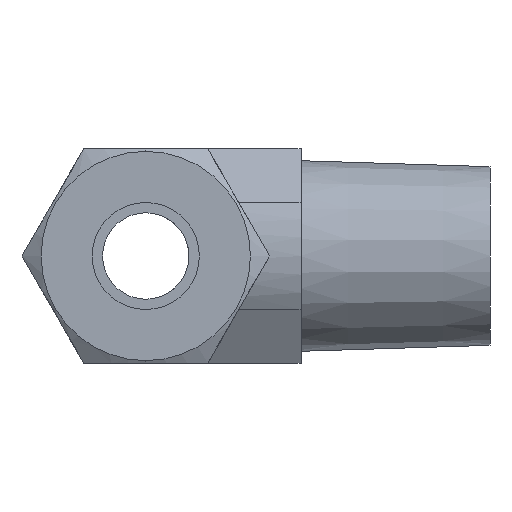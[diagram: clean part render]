
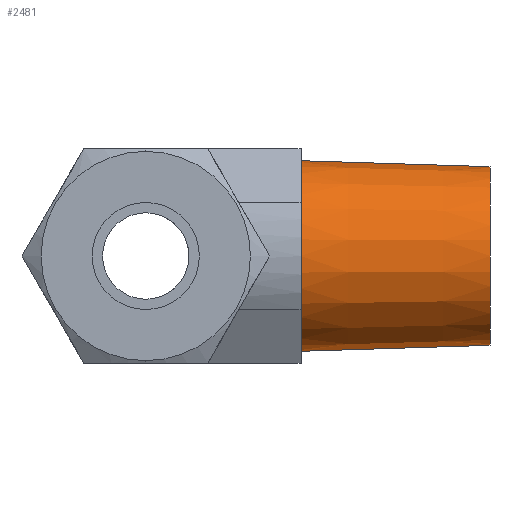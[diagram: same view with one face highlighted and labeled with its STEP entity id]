
A CAD part, left-side view. The second image highlights one B-rep face of the part: STEP entity #2481.
In plain terms, the highlighted conical face has half-angle 1.8 degrees and reference radius 6.8 mm.
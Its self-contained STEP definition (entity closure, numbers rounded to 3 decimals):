
#1 = ORIENTED_EDGE ( 'NONE', *, *, #2, .T. ) ;
#2 = EDGE_CURVE ( 'NONE', #5, #2493, #748, .T. ) ;
#3 = EDGE_CURVE ( 'NONE', #5, #2492, #744, .T. ) ;
#5 = VERTEX_POINT ( 'NONE', #739 ) ;
#9 = ORIENTED_EDGE ( 'NONE', *, *, #10, .F. ) ;
#10 = EDGE_CURVE ( 'NONE', #2492, #15, #736, .T. ) ;
#15 = VERTEX_POINT ( 'NONE', #791 ) ;
#18 = EDGE_CURVE ( 'NONE', #2493, #15, #788, .T. ) ;
#733 = DIRECTION ( 'NONE',  ( 0., 1., -0.031 ) ) ;
#734 = VECTOR ( 'NONE', #733, 1000. ) ;
#735 = CARTESIAN_POINT ( 'NONE',  ( 0., -19.71, -6.8 ) ) ;
#736 = LINE ( 'NONE', #735, #734 ) ;
#739 = CARTESIAN_POINT ( 'NONE',  ( 0., -25.5, 6.618 ) ) ;
#740 = DIRECTION ( 'NONE',  ( 0., 0., -1. ) ) ;
#741 = DIRECTION ( 'NONE',  ( 0., -1., 0. ) ) ;
#742 = CARTESIAN_POINT ( 'NONE',  ( 0., -25.5, 0. ) ) ;
#743 = AXIS2_PLACEMENT_3D ( 'NONE', #742, #741, #740 ) ;
#744 = CIRCLE ( 'NONE', #743, 6.618 ) ;
#745 = DIRECTION ( 'NONE',  ( 0., 1., 0.031 ) ) ;
#746 = VECTOR ( 'NONE', #745, 1000. ) ;
#747 = CARTESIAN_POINT ( 'NONE',  ( 0., -19.71, 6.8 ) ) ;
#748 = LINE ( 'NONE', #747, #746 ) ;
#780 = DIRECTION ( 'NONE',  ( 0., 0., 1. ) ) ;
#781 = DIRECTION ( 'NONE',  ( 0., -1., 0. ) ) ;
#782 = CARTESIAN_POINT ( 'NONE',  ( 0., -11.5, 0. ) ) ;
#783 = AXIS2_PLACEMENT_3D ( 'NONE', #782, #781, #780 ) ;
#788 = CIRCLE ( 'NONE', #783, 7.058 ) ;
#791 = CARTESIAN_POINT ( 'NONE',  ( 0., -11.5, -7.058 ) ) ;
#2218 = CARTESIAN_POINT ( 'NONE',  ( 0., -25.5, -6.618 ) ) ;
#2238 = DIRECTION ( 'NONE',  ( 0., 0., -1. ) ) ;
#2239 = DIRECTION ( 'NONE',  ( 0., 1., 0. ) ) ;
#2240 = AXIS2_PLACEMENT_3D ( 'NONE', #2246, #2239, #2238 ) ;
#2241 = CONICAL_SURFACE ( 'NONE', #2240, 6.8, 0.031 ) ;
#2246 = CARTESIAN_POINT ( 'NONE',  ( 0., -19.71, 0. ) ) ;
#2247 = FACE_OUTER_BOUND ( 'NONE', #2485, .T. ) ;
#2276 = CARTESIAN_POINT ( 'NONE',  ( 0., -11.5, 7.058 ) ) ;
#2481 = ADVANCED_FACE ( 'NONE', ( #2247 ), #2241, .T. ) ;
#2483 = ORIENTED_EDGE ( 'NONE', *, *, #3, .F. ) ;
#2485 = EDGE_LOOP ( 'NONE', ( #2483, #1, #2502, #9 ) ) ;
#2492 = VERTEX_POINT ( 'NONE', #2218 ) ;
#2493 = VERTEX_POINT ( 'NONE', #2276 ) ;
#2502 = ORIENTED_EDGE ( 'NONE', *, *, #18, .T. ) ;
